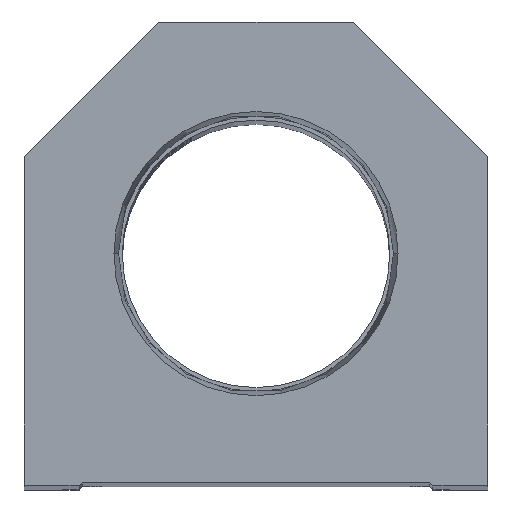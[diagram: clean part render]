
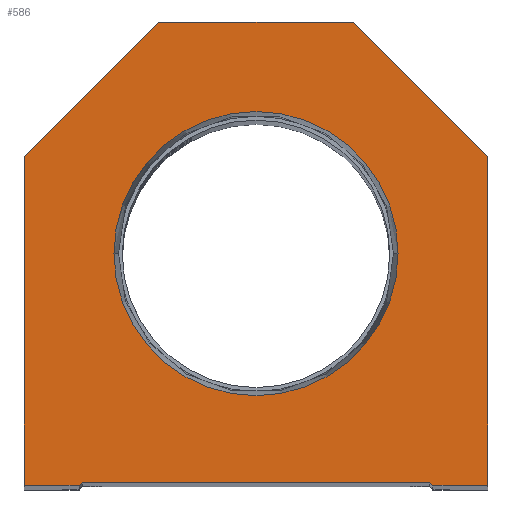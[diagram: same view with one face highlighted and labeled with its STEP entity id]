
A CAD part, top view. The second image highlights one B-rep face of the part: STEP entity #586.
In plain terms, the highlighted planar face has unit normal (0, 0, 1).
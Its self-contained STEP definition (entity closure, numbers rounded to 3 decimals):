
#77 = ORIENTED_EDGE ( 'NONE', *, *, #3745, .T. ) ;
#92 = CARTESIAN_POINT ( 'NONE',  ( 29.1, 0., 0. ) ) ;
#209 = VECTOR ( 'NONE', #13939, 1000. ) ;
#467 = CARTESIAN_POINT ( 'NONE',  ( 38.1, 54.1, 0. ) ) ;
#484 = CARTESIAN_POINT ( 'NONE',  ( -14.55, 14.55, 0. ) ) ;
#586 = ADVANCED_FACE ( 'NONE', ( #2889, #17486 ), #11601, .T. ) ;
#958 = VECTOR ( 'NONE', #2974, 1000. ) ;
#1110 = VECTOR ( 'NONE', #5885, 1000. ) ;
#1360 = DIRECTION ( 'NONE',  ( 1., 0., 0. ) ) ;
#1372 = EDGE_CURVE ( 'NONE', #17777, #9249, #18247, .T. ) ;
#1466 = LINE ( 'NONE', #13093, #14096 ) ;
#1490 = CARTESIAN_POINT ( 'NONE',  ( 16., 76.2, 0. ) ) ;
#1898 = LINE ( 'NONE', #12163, #4924 ) ;
#2092 = CARTESIAN_POINT ( 'NONE',  ( -38.1, 0., 0. ) ) ;
#2889 = FACE_BOUND ( 'NONE', #12372, .T. ) ;
#2974 = DIRECTION ( 'NONE',  ( 0.707, -0.707, 0. ) ) ;
#3561 = ORIENTED_EDGE ( 'NONE', *, *, #1372, .F. ) ;
#3745 = EDGE_CURVE ( 'NONE', #7652, #13365, #9500, .T. ) ;
#3848 = VERTEX_POINT ( 'NONE', #18200 ) ;
#3978 = CIRCLE ( 'NONE', #17036, 23.374 ) ;
#4149 = AXIS2_PLACEMENT_3D ( 'NONE', #14641, #15904, #14448 ) ;
#4280 = EDGE_CURVE ( 'NONE', #3848, #7073, #17077, .T. ) ;
#4448 = ORIENTED_EDGE ( 'NONE', *, *, #11982, .F. ) ;
#4563 = EDGE_CURVE ( 'NONE', #7073, #11333, #19046, .T. ) ;
#4564 = CARTESIAN_POINT ( 'NONE',  ( 28.6, 0.5, 0. ) ) ;
#4924 = VECTOR ( 'NONE', #10514, 1000. ) ;
#4927 = VECTOR ( 'NONE', #12271, 1000. ) ;
#4955 = ORIENTED_EDGE ( 'NONE', *, *, #18291, .T. ) ;
#5658 = CARTESIAN_POINT ( 'NONE',  ( 38.1, 0., 0. ) ) ;
#5885 = DIRECTION ( 'NONE',  ( 0., 1., 0. ) ) ;
#5905 = ORIENTED_EDGE ( 'NONE', *, *, #4280, .T. ) ;
#5950 = ORIENTED_EDGE ( 'NONE', *, *, #19008, .T. ) ;
#5978 = ORIENTED_EDGE ( 'NONE', *, *, #10505, .T. ) ;
#6135 = CARTESIAN_POINT ( 'NONE',  ( -16., 76.2, 0. ) ) ;
#6197 = ORIENTED_EDGE ( 'NONE', *, *, #13379, .T. ) ;
#6207 = CARTESIAN_POINT ( 'NONE',  ( -28.6, 0.5, 0. ) ) ;
#6386 = CARTESIAN_POINT ( 'NONE',  ( 16., 76.2, 0. ) ) ;
#7073 = VERTEX_POINT ( 'NONE', #17415 ) ;
#7615 = VECTOR ( 'NONE', #8020, 1000. ) ;
#7652 = VERTEX_POINT ( 'NONE', #467 ) ;
#7669 = ORIENTED_EDGE ( 'NONE', *, *, #15258, .T. ) ;
#7791 = EDGE_LOOP ( 'NONE', ( #16365, #4955, #15338, #5950, #7669, #6197, #77, #5978, #9993, #5905 ) ) ;
#8020 = DIRECTION ( 'NONE',  ( -0.707, 0.707, 0. ) ) ;
#8088 = LINE ( 'NONE', #15425, #15099 ) ;
#8284 = CARTESIAN_POINT ( 'NONE',  ( -29.1, 0., 0. ) ) ;
#8705 = CARTESIAN_POINT ( 'NONE',  ( 0., 38.1, 0. ) ) ;
#9003 = CARTESIAN_POINT ( 'NONE',  ( 23.374, 38.1, 0. ) ) ;
#9249 = VERTEX_POINT ( 'NONE', #9003 ) ;
#9405 = LINE ( 'NONE', #484, #11772 ) ;
#9500 = LINE ( 'NONE', #15456, #7615 ) ;
#9993 = ORIENTED_EDGE ( 'NONE', *, *, #11731, .T. ) ;
#10505 = EDGE_CURVE ( 'NONE', #13365, #17674, #11985, .T. ) ;
#10514 = DIRECTION ( 'NONE',  ( -0.707, -0.707, 0. ) ) ;
#10946 = CARTESIAN_POINT ( 'NONE',  ( -23.374, 38.1, 0. ) ) ;
#11089 = CARTESIAN_POINT ( 'NONE',  ( -28.6, 0., 0. ) ) ;
#11260 = VERTEX_POINT ( 'NONE', #6207 ) ;
#11333 = VERTEX_POINT ( 'NONE', #8284 ) ;
#11345 = DIRECTION ( 'NONE',  ( 1., 0., 0. ) ) ;
#11601 = PLANE ( 'NONE',  #4149 ) ;
#11653 = AXIS2_PLACEMENT_3D ( 'NONE', #12973, #14561, #11345 ) ;
#11731 = EDGE_CURVE ( 'NONE', #17674, #3848, #1898, .T. ) ;
#11772 = VECTOR ( 'NONE', #16734, 1000. ) ;
#11975 = VERTEX_POINT ( 'NONE', #4564 ) ;
#11982 = EDGE_CURVE ( 'NONE', #9249, #17777, #3978, .T. ) ;
#11985 = LINE ( 'NONE', #6386, #4927 ) ;
#12163 = CARTESIAN_POINT ( 'NONE',  ( -38.1, 54.1, 0. ) ) ;
#12271 = DIRECTION ( 'NONE',  ( -1., 0., 0. ) ) ;
#12372 = EDGE_LOOP ( 'NONE', ( #4448, #3561 ) ) ;
#12402 = VERTEX_POINT ( 'NONE', #92 ) ;
#12727 = EDGE_CURVE ( 'NONE', #11260, #11975, #8088, .T. ) ;
#12913 = VECTOR ( 'NONE', #15865, 1000. ) ;
#12973 = CARTESIAN_POINT ( 'NONE',  ( 0., 38.1, 0. ) ) ;
#13093 = CARTESIAN_POINT ( 'NONE',  ( 28.6, 0., 0. ) ) ;
#13121 = LINE ( 'NONE', #13317, #1110 ) ;
#13317 = CARTESIAN_POINT ( 'NONE',  ( 38.1, 0., 0. ) ) ;
#13365 = VERTEX_POINT ( 'NONE', #1490 ) ;
#13379 = EDGE_CURVE ( 'NONE', #17611, #7652, #13121, .T. ) ;
#13939 = DIRECTION ( 'NONE',  ( 0., -1., 0. ) ) ;
#14096 = VECTOR ( 'NONE', #19222, 1000. ) ;
#14448 = DIRECTION ( 'NONE',  ( 1., 0., 0. ) ) ;
#14561 = DIRECTION ( 'NONE',  ( 0., 0., 1. ) ) ;
#14641 = CARTESIAN_POINT ( 'NONE',  ( 0., 0., 0. ) ) ;
#15099 = VECTOR ( 'NONE', #15717, 1000. ) ;
#15258 = EDGE_CURVE ( 'NONE', #12402, #17611, #1466, .T. ) ;
#15338 = ORIENTED_EDGE ( 'NONE', *, *, #12727, .T. ) ;
#15425 = CARTESIAN_POINT ( 'NONE',  ( -28.6, 0.5, 0. ) ) ;
#15456 = CARTESIAN_POINT ( 'NONE',  ( 38.1, 54.1, 0. ) ) ;
#15717 = DIRECTION ( 'NONE',  ( 1., 0., 0. ) ) ;
#15865 = DIRECTION ( 'NONE',  ( 1., 0., 0. ) ) ;
#15904 = DIRECTION ( 'NONE',  ( 0., 0., 1. ) ) ;
#16365 = ORIENTED_EDGE ( 'NONE', *, *, #4563, .T. ) ;
#16430 = DIRECTION ( 'NONE',  ( 0., 0., 1. ) ) ;
#16734 = DIRECTION ( 'NONE',  ( 0.707, 0.707, 0. ) ) ;
#17036 = AXIS2_PLACEMENT_3D ( 'NONE', #8705, #16430, #1360 ) ;
#17077 = LINE ( 'NONE', #2092, #209 ) ;
#17415 = CARTESIAN_POINT ( 'NONE',  ( -38.1, 0., 0. ) ) ;
#17486 = FACE_OUTER_BOUND ( 'NONE', #7791, .T. ) ;
#17611 = VERTEX_POINT ( 'NONE', #5658 ) ;
#17674 = VERTEX_POINT ( 'NONE', #6135 ) ;
#17777 = VERTEX_POINT ( 'NONE', #10946 ) ;
#17866 = LINE ( 'NONE', #17959, #958 ) ;
#17959 = CARTESIAN_POINT ( 'NONE',  ( 14.55, 14.55, 0. ) ) ;
#18200 = CARTESIAN_POINT ( 'NONE',  ( -38.1, 54.1, 0. ) ) ;
#18247 = CIRCLE ( 'NONE', #11653, 23.374 ) ;
#18291 = EDGE_CURVE ( 'NONE', #11333, #11260, #9405, .T. ) ;
#19008 = EDGE_CURVE ( 'NONE', #11975, #12402, #17866, .T. ) ;
#19046 = LINE ( 'NONE', #11089, #12913 ) ;
#19222 = DIRECTION ( 'NONE',  ( 1., 0., 0. ) ) ;
